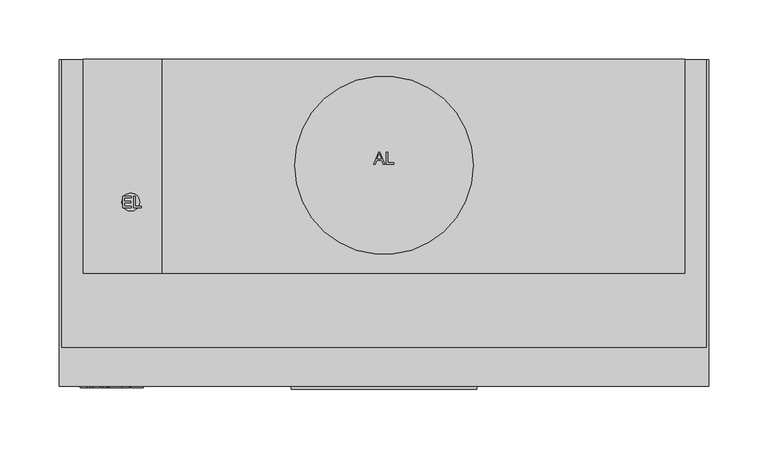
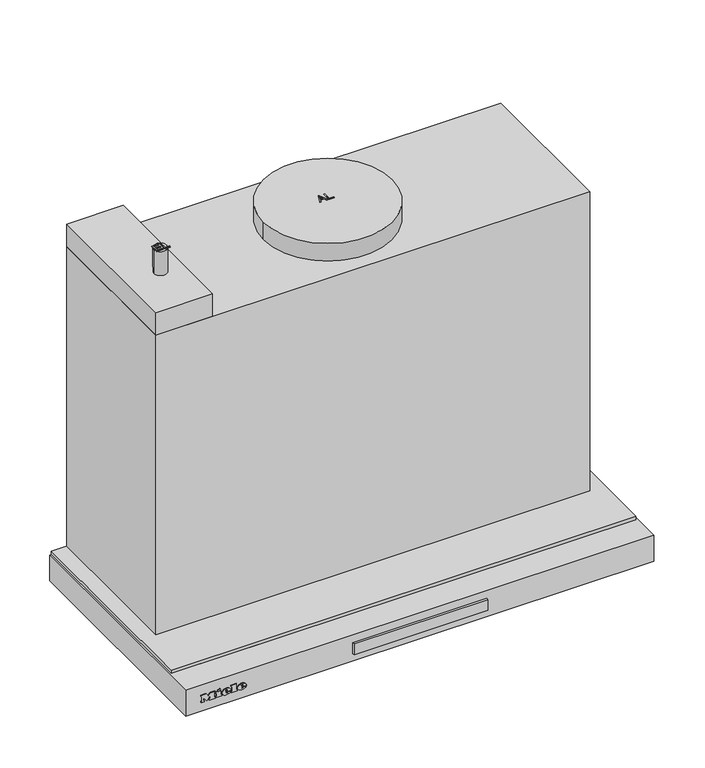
"""IFC4 building model written with IfcOpenShell, lengths in millimetres: proxy geometry, 11862900_CH_DAS4520_EDST : 28S4520S_CH_11862900_DAS4520_EDST."""

from ifc_helpers import new_model, si_unit, point, frame, frame_2d, origin, origin_with_axes, place, context, project, spatial, polyline, circle_curve, ellipse_curve, trimmed, segment, composite_curve, outline, extrude, faceted_brep, source, transform, mapped, element, save
from ifc_brep_helpers import plane_surface, cylinder_surface, revolved_surface, extruded_surface, advanced_brep


def specialty_equipment_daa0029f(model_context):
    return source(origin(), model_context, "Body", "SolidModel", [
        extrude(outline(polyline([(78.0, -275.0), (78.0, -277.3978707), (-78.0, -277.3978707), (-78.0, -275.0), (78.0, -275.0)])), frame((0.0, 0.0, -23.0389651), z_axis=(0.0, 0.0, 1.0), x_axis=(1.0, 0.0, 0.0)), (0.0, 0.0, 1.0), 13.3389155),
        advanced_brep(
        [(-208.4590019, -276.0, -18.7681017), (-208.4590019, -276.0, -17.8894017), (-202.6387019, -276.0, -17.8894017), (-212.7655019, -276.0, -17.8894017), (-210.3730019, -276.0, -20.8300017), (-202.7866019, -276.0, -18.7681017), (-205.4140019, -276.0, -18.7681017), (-207.4846019, -276.0, -19.7425017), (-208.4590019, -276.0, -16.7758017), (-208.4590019, -276.0, -15.8275017), (-206.9713019, -276.0, -15.8275017), (-206.9713019, -276.0, -16.7758017), (-208.4590019, -275.0, -18.7681017), (-207.4846019, -275.0, -19.7425017), (-205.4140019, -275.0, -18.7681017), (-202.7866019, -275.0, -18.7681017), (-210.3730019, -275.0, -20.8300017), (-212.7655019, -275.0, -17.8894017), (-202.6387019, -275.0, -17.8894017), (-208.4590019, -275.0, -17.8894017), (-208.4590019, -275.0, -16.7758017), (-206.9713019, -275.0, -16.7758017), (-206.9713019, -275.0, -15.8275017), (-208.4590019, -275.0, -15.8275017)],
        [
            (0, 1),
            (1, 2),
            (2, 3, ellipse_curve(frame((-207.7021019, -276.0, -17.8894017), z_axis=(0.0, -1.0, 0.0), x_axis=(-1.0, 0.0, 0.0)), 5.0634, 4.1847)),
            (3, 4, circle_curve(frame((-209.3985544, -276.0, -17.5936017), z_axis=(0.0, -1.0, 0.0), x_axis=(0.0, 0.0, -1.0)), 3.3799161)),
            (4, 5, circle_curve(frame((-207.8034638, -276.0, -15.2968017), z_axis=(0.0, -1.0, 0.0), x_axis=(0.0, 0.0, -1.0)), 6.1007236)),
            (5, 6),
            (6, 7, circle_curve(frame((-207.0593254, -276.0, -17.9590017), z_axis=(0.0, 1.0, 0.0), x_axis=(0.0, 0.0, -1.0)), 1.8335027)),
            (7, 0, circle_curve(frame((-207.4846019, -276.0, -18.7681017), z_axis=(0.0, 1.0, 0.0), x_axis=(0.0, 0.0, -1.0)), 0.9744)),
            (8, 9),
            (9, 10, circle_curve(frame((-207.7151519, -276.0, -15.8275017), z_axis=(0.0, 1.0, 0.0), x_axis=(0.0, 0.0, -1.0)), 0.74385)),
            (10, 11),
            (11, 8),
            (12, 13, circle_curve(frame((-207.4846019, -275.0, -18.7681017), z_axis=(0.0, -1.0, 0.0), x_axis=(0.0, 0.0, -1.0)), 0.9744)),
            (13, 14, circle_curve(frame((-207.0593254, -275.0, -17.9590017), z_axis=(0.0, -1.0, 0.0), x_axis=(0.0, 0.0, -1.0)), 1.8335027)),
            (14, 15),
            (15, 16, circle_curve(frame((-207.8034638, -275.0, -15.2968017), z_axis=(0.0, 1.0, 0.0), x_axis=(0.0, 0.0, -1.0)), 6.1007236)),
            (16, 17, circle_curve(frame((-209.3985544, -275.0, -17.5936017), z_axis=(0.0, 1.0, 0.0), x_axis=(0.0, 0.0, -1.0)), 3.3799161)),
            (17, 18, ellipse_curve(frame((-207.7021019, -275.0, -17.8894017), z_axis=(0.0, 1.0, 0.0), x_axis=(-1.0, 0.0, 0.0)), 5.0634, 4.1847)),
            (18, 19),
            (19, 12),
            (20, 21),
            (21, 22),
            (22, 23, circle_curve(frame((-207.7151519, -275.0, -15.8275017), z_axis=(0.0, -1.0, 0.0), x_axis=(0.0, 0.0, -1.0)), 0.74385)),
            (23, 20),
            (0, 12),
            (19, 1),
            (18, 2),
            (5, 15),
            (14, 6),
            (17, 3),
            (13, 7),
            (16, 4),
            (8, 20),
            (23, 9),
            (22, 10),
            (21, 11),
        ],
        [
            plane_surface(frame((-208.4590019, -276.0, -17.8894017), z_axis=(0.0, -1.0, 0.0), x_axis=(0.0, 0.0, 1.0))),
            plane_surface(frame((-208.4590019, -275.0, -17.8894017), z_axis=(0.0, 1.0, 0.0), x_axis=(0.0, 0.0, -1.0))),
            plane_surface(frame((-208.4590019, -276.0, -18.7681017), z_axis=(1.0, 0.0, 0.0), x_axis=(0.0, 1.0, 0.0))),
            plane_surface(frame((-208.4590019, -276.0, -17.8894017), z_axis=(0.0, 0.0, -1.0), x_axis=(0.0, 1.0, 0.0))),
            plane_surface(frame((-202.7866019, -276.0, -18.7681017), z_axis=(0.0, 0.0, 1.0), x_axis=(0.0, 1.0, 0.0))),
            extruded_surface(trimmed(ellipse_curve(frame((-207.7021019, -274.0, -17.8894017), z_axis=(0.0, -1.0, 0.0), x_axis=(-1.0, 0.0, 0.0)), 5.0634, 4.1847), [point((-202.6387019, -274.0, -17.8894017))], [point((-212.7655019, -274.0, -17.8894017))], True, "CARTESIAN"), (0.0, -1.0, 0.0), 1.0),
            revolved_surface(polyline([(-207.0593254, -275.0, -19.792504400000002), (-207.0593254, -276.0, -19.792504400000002)]), (-207.0593254, -275.0, -17.9590017), (0.0, 1.0, 0.0)),
            revolved_surface(polyline([(-207.4846019, -275.0, -19.7425017), (-207.4846019, -276.0, -19.7425017)]), (-207.4846019, -275.0, -18.7681017), (0.0, 1.0, 0.0)),
            cylinder_surface(frame((-209.3985544, -275.0, -17.5936017), z_axis=(0.0, -1.0, 0.0), x_axis=(0.0, 0.0, -1.0)), 3.3799161),
            cylinder_surface(frame((-207.8034638, -275.0, -15.2968017), z_axis=(0.0, -1.0, 0.0), x_axis=(0.0, 0.0, -1.0)), 6.1007236),
            plane_surface(frame((-208.4590019, -276.0, -16.7758017), z_axis=(1.0, 0.0, 0.0), x_axis=(0.0, 1.0, 0.0))),
            revolved_surface(polyline([(-207.7151519, -275.0, -16.571351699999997), (-207.7151519, -276.0, -16.571351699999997)]), (-207.7151519, -275.0, -15.8275017), (0.0, 1.0, 0.0)),
            plane_surface(frame((-206.9713019, -276.0, -15.8275017), z_axis=(-1.0, 0.0, 0.0), x_axis=(0.0, 1.0, 0.0))),
            plane_surface(frame((-206.9713019, -276.0, -16.7758017), z_axis=(0.0, 0.0, 1.0), x_axis=(0.0, 1.0, 0.0))),
        ],
        [
            (0, [[1, 2, 3, 4, 5, 6, 7, 8], [9, 10, 11, 12]]),
            (1, [[13, 14, 15, 16, 17, 18, 19, 20], [21, 22, 23, 24]]),
            (2, [[-1, 25, -20, 26]]),
            (3, [[-2, -26, -19, 27]]),
            (4, [[-6, 28, -15, 29]]),
            (5, [[-3, -27, -18, 30]]),
            (6, [[-7, -29, -14, 31]]),
            (7, [[-8, -31, -13, -25]]),
            (8, [[-4, -30, -17, 32]]),
            (9, [[-5, -32, -16, -28]]),
            (10, [[-9, 33, -24, 34]]),
            (11, [[-10, -34, -23, 35]]),
            (12, [[-11, -35, -22, 36]]),
            (13, [[-12, -36, -21, -33]]),
        ],
    ),
        advanced_brep(
        [(-226.6159019, -276.0, -18.7681017), (-226.6159019, -276.0, -17.8894017), (-220.7956019, -276.0, -17.8894017), (-230.9224019, -276.0, -17.8894017), (-228.5299019, -276.0, -20.8300017), (-220.9435019, -276.0, -18.7681017), (-223.5709019, -276.0, -18.7681017), (-225.6415019, -276.0, -19.7425017), (-226.6159019, -276.0, -16.7758017), (-226.6159019, -276.0, -15.8275017), (-225.1282019, -276.0, -15.8275017), (-225.1282019, -276.0, -16.7758017), (-226.6159019, -275.0, -18.7681017), (-225.6415019, -275.0, -19.7425017), (-223.5709019, -275.0, -18.7681017), (-220.9435019, -275.0, -18.7681017), (-228.5299019, -275.0, -20.8300017), (-230.9224019, -275.0, -17.8894017), (-220.7956019, -275.0, -17.8894017), (-226.6159019, -275.0, -17.8894017), (-226.6159019, -275.0, -16.7758017), (-225.1282019, -275.0, -16.7758017), (-225.1282019, -275.0, -15.8275017), (-226.6159019, -275.0, -15.8275017)],
        [
            (0, 1),
            (1, 2),
            (2, 3, ellipse_curve(frame((-225.8590019, -276.0, -17.8894017), z_axis=(0.0, -1.0, 0.0), x_axis=(-1.0, 0.0, 0.0)), 5.0634, 4.1847)),
            (3, 4, circle_curve(frame((-227.5554544, -276.0, -17.5936017), z_axis=(0.0, -1.0, 0.0), x_axis=(0.0, 0.0, -1.0)), 3.3799161)),
            (4, 5, circle_curve(frame((-225.9603638, -276.0, -15.2968017), z_axis=(0.0, -1.0, 0.0), x_axis=(0.0, 0.0, -1.0)), 6.1007236)),
            (5, 6),
            (6, 7, circle_curve(frame((-225.2162254, -276.0, -17.9590017), z_axis=(0.0, 1.0, 0.0), x_axis=(0.0, 0.0, -1.0)), 1.8335027)),
            (7, 0, circle_curve(frame((-225.6415019, -276.0, -18.7681017), z_axis=(0.0, 1.0, 0.0), x_axis=(0.0, 0.0, -1.0)), 0.9744)),
            (8, 9),
            (9, 10, circle_curve(frame((-225.8720519, -276.0, -15.8275017), z_axis=(0.0, 1.0, 0.0), x_axis=(0.0, 0.0, -1.0)), 0.74385)),
            (10, 11),
            (11, 8),
            (12, 13, circle_curve(frame((-225.6415019, -275.0, -18.7681017), z_axis=(0.0, -1.0, 0.0), x_axis=(0.0, 0.0, -1.0)), 0.9744)),
            (13, 14, circle_curve(frame((-225.2162254, -275.0, -17.9590017), z_axis=(0.0, -1.0, 0.0), x_axis=(0.0, 0.0, -1.0)), 1.8335027)),
            (14, 15),
            (15, 16, circle_curve(frame((-225.9603638, -275.0, -15.2968017), z_axis=(0.0, 1.0, 0.0), x_axis=(0.0, 0.0, -1.0)), 6.1007236)),
            (16, 17, circle_curve(frame((-227.5554544, -275.0, -17.5936017), z_axis=(0.0, 1.0, 0.0), x_axis=(0.0, 0.0, -1.0)), 3.3799161)),
            (17, 18, ellipse_curve(frame((-225.8590019, -275.0, -17.8894017), z_axis=(0.0, 1.0, 0.0), x_axis=(-1.0, 0.0, 0.0)), 5.0634, 4.1847)),
            (18, 19),
            (19, 12),
            (20, 21),
            (21, 22),
            (22, 23, circle_curve(frame((-225.8720519, -275.0, -15.8275017), z_axis=(0.0, -1.0, 0.0), x_axis=(0.0, 0.0, -1.0)), 0.74385)),
            (23, 20),
            (0, 12),
            (19, 1),
            (18, 2),
            (5, 15),
            (14, 6),
            (17, 3),
            (13, 7),
            (16, 4),
            (8, 20),
            (23, 9),
            (22, 10),
            (21, 11),
        ],
        [
            plane_surface(frame((-226.6159019, -276.0, -17.8894017), z_axis=(0.0, -1.0, 0.0), x_axis=(0.0, 0.0, 1.0))),
            plane_surface(frame((-226.6159019, -275.0, -17.8894017), z_axis=(0.0, 1.0, 0.0), x_axis=(0.0, 0.0, -1.0))),
            plane_surface(frame((-226.6159019, -276.0, -18.7681017), z_axis=(1.0, 0.0, 0.0), x_axis=(0.0, 1.0, 0.0))),
            plane_surface(frame((-226.6159019, -276.0, -17.8894017), z_axis=(0.0, 0.0, -1.0), x_axis=(0.0, 1.0, 0.0))),
            plane_surface(frame((-220.9435019, -276.0, -18.7681017), z_axis=(0.0, 0.0, 1.0), x_axis=(0.0, 1.0, 0.0))),
            extruded_surface(trimmed(ellipse_curve(frame((-225.8590019, -274.0, -17.8894017), z_axis=(0.0, -1.0, 0.0), x_axis=(-1.0, 0.0, 0.0)), 5.0634, 4.1847), [point((-220.7956019, -274.0, -17.8894017))], [point((-230.9224019, -274.0, -17.8894017))], True, "CARTESIAN"), (0.0, -1.0, 0.0), 1.0),
            revolved_surface(polyline([(-225.2162254, -275.0, -19.792504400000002), (-225.2162254, -276.0, -19.792504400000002)]), (-225.2162254, -275.0, -17.9590017), (0.0, 1.0, 0.0)),
            revolved_surface(polyline([(-225.6415019, -275.0, -19.7425017), (-225.6415019, -276.0, -19.7425017)]), (-225.6415019, -275.0, -18.7681017), (0.0, 1.0, 0.0)),
            cylinder_surface(frame((-227.5554544, -275.0, -17.5936017), z_axis=(0.0, -1.0, 0.0), x_axis=(0.0, 0.0, -1.0)), 3.3799161),
            cylinder_surface(frame((-225.9603638, -275.0, -15.2968017), z_axis=(0.0, -1.0, 0.0), x_axis=(0.0, 0.0, -1.0)), 6.1007236),
            plane_surface(frame((-226.6159019, -276.0, -16.7758017), z_axis=(1.0, 0.0, 0.0), x_axis=(0.0, 1.0, 0.0))),
            revolved_surface(polyline([(-225.8720519, -275.0, -16.571351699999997), (-225.8720519, -276.0, -16.571351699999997)]), (-225.8720519, -275.0, -15.8275017), (0.0, 1.0, 0.0)),
            plane_surface(frame((-225.1282019, -276.0, -15.8275017), z_axis=(-1.0, 0.0, 0.0), x_axis=(0.0, 1.0, 0.0))),
            plane_surface(frame((-225.1282019, -276.0, -16.7758017), z_axis=(0.0, 0.0, 1.0), x_axis=(0.0, 1.0, 0.0))),
        ],
        [
            (0, [[1, 2, 3, 4, 5, 6, 7, 8], [9, 10, 11, 12]]),
            (1, [[13, 14, 15, 16, 17, 18, 19, 20], [21, 22, 23, 24]]),
            (2, [[-1, 25, -20, 26]]),
            (3, [[-2, -26, -19, 27]]),
            (4, [[-6, 28, -15, 29]]),
            (5, [[-3, -27, -18, 30]]),
            (6, [[-7, -29, -14, 31]]),
            (7, [[-8, -31, -13, -25]]),
            (8, [[-4, -30, -17, 32]]),
            (9, [[-5, -32, -16, -28]]),
            (10, [[-9, 33, -24, 34]]),
            (11, [[-10, -34, -23, 35]]),
            (12, [[-11, -35, -22, 36]]),
            (13, [[-12, -36, -21, -33]]),
        ],
    ),
        extrude(outline(polyline([(-12.6433017, -236.1250019), (-14.0527017, -235.4638019), (-12.6781017, -232.5145019), (-11.2687017, -233.1670019), (-12.6433017, -236.1250019)])), frame((0.0, -276.0, 0.0), z_axis=(0.0, 1.0, 0.0), x_axis=(0.0, 0.0, 1.0)), (0.0, 0.0, 1.0), 1.0),
        extrude(outline(polyline([(-14.2441017, -238.2739019), (-15.8014017, -238.2739019), (-15.8014017, -237.2386019), (-19.3684017, -237.2386019), (-19.3684017, -238.2739019), (-20.8300017, -238.2739019), (-20.8300017, -231.4096019), (-19.3684017, -231.4096019), (-19.3684017, -232.4188019), (-14.2441017, -232.4188019), (-14.2441017, -238.2739019)])), frame((0.0, -276.0, 0.0), z_axis=(0.0, 1.0, 0.0), x_axis=(0.0, 0.0, 1.0)), (0.0, 0.0, 1.0), 1.0),
        extrude(outline(polyline([(-13.5481017, -220.3084019), (-13.5481017, -219.2644019), (-19.3684017, -219.2644019), (-19.3684017, -220.3084019), (-20.8300017, -220.3084019), (-20.8300017, -213.2527019), (-19.3684017, -213.2527019), (-19.3684017, -214.3228019), (-12.1300017, -214.3228019), (-12.1300017, -220.3084019), (-13.5481017, -220.3084019)])), frame((0.0, -276.0, 0.0), z_axis=(0.0, 1.0, 0.0), x_axis=(0.0, 0.0, 1.0)), (0.0, 0.0, 1.0), 1.0),
        extrude(outline(polyline([(-13.5481017, -255.6130019), (-13.5481017, -254.5603019), (-19.3684017, -254.5603019), (-19.3684017, -255.6130019), (-20.8300017, -255.6130019), (-20.8300017, -251.7850019), (-19.3684017, -251.7850019), (-19.3684017, -252.8290019), (-15.6719769, -252.8290019), (-20.8300017, -248.9401019), (-15.5772794, -245.0338019), (-19.3684017, -245.0338019), (-19.3684017, -246.1039019), (-20.8300017, -246.1039019), (-20.8300017, -239.1613019), (-19.3684017, -239.1613019), (-19.3684017, -240.2662019), (-13.5481017, -240.2662019), (-13.5481017, -239.1613019), (-12.1300017, -239.1613019), (-12.1300017, -244.4596019), (-15.3925017, -247.0000019), (-12.1300017, -249.5491019), (-12.1300017, -255.6130019), (-13.5481017, -255.6130019)])), frame((0.0, -276.0, 0.0), z_axis=(0.0, 1.0, 0.0), x_axis=(0.0, 0.0, 1.0)), (0.0, 0.0, 1.0), 1.0),
        extrude(outline(polyline([(253.0, -180.0), (-253.0, -180.0), (-253.0, 0.0), (253.0, 0.0), (253.0, -180.0)])), frame((0.0, 0.0, 4.0), z_axis=(0.0, 0.0, 1.0), x_axis=(1.0, 0.0, 0.0)), (0.0, 0.0, 1.0), 369.0),
        extrude(outline(composite_curve([segment(trimmed(circle_curve(frame_2d((0.0, -89.0)), 75.0), [point((-75.0, -89.0))], [point((75.0, -89.0))], False, "CARTESIAN"), True, "CONTINUOUS"), segment(trimmed(circle_curve(frame_2d((0.0, -89.0)), 75.0), [point((75.0, -89.0))], [point((-75.0, -89.0))], False, "CARTESIAN"), True, "CONTINUOUS")], self_intersect=False)), frame((0.0, 0.0, 373.0), z_axis=(0.0, 0.0, 1.0), x_axis=(1.0, 0.0, 0.0)), (0.0, 0.0, 1.0), 22.0),
        extrude(outline(polyline([(-253.0, -180.0), (-253.0, 0.0), (-187.0, 0.0), (-187.0, -180.0), (-253.0, -180.0)])), frame((0.0, 0.0, 373.0), z_axis=(0.0, 0.0, 1.0), x_axis=(1.0, 0.0, 0.0)), (0.0, 0.0, 1.0), 28.0),
        extrude(outline(polyline([(-8.5446725, -87.975609), (-4.5347587, -77.929978), (-3.4654484, -77.929978), (0.5420128, -87.975609), (-0.7848149, -87.975609), (-1.9326067, -84.8363493), (-6.0725055, -84.8363493), (-7.2202973, -87.975609), (-8.5446725, -87.975609)]), holes=[polyline([(-5.6114267, -83.5806455), (-2.391233, -83.5806455), (-3.2986752, -81.110931), (-4.0025561, -79.1856819), (-4.6279555, -80.8951069), (-5.6114267, -83.5806455)])]), frame((0.0, 0.0, 395.0), z_axis=(0.0, 0.0, 1.0), x_axis=(1.0, 0.0, 0.0)), (0.0, 0.0, 1.0), 1.0),
        extrude(outline(polyline([(1.8835558, -87.975609), (1.8835558, -77.929978), (3.1392597, -77.929978), (3.1392597, -86.7199052), (8.1620752, -86.7199052), (8.1620752, -87.975609), (1.8835558, -87.975609)])), frame((0.0, 0.0, 395.0), z_axis=(0.0, 0.0, 1.0), x_axis=(1.0, 0.0, 0.0)), (0.0, 0.0, 1.0), 1.0),
        extrude(outline(polyline([(271.0, 0.0), (271.0, -242.0), (-271.0, -242.0), (-271.0, 0.0), (271.0, 0.0)])), origin_with_axes(), (0.0, 0.0, 1.0), 4.0),
        extrude(outline(polyline([(120.0, -19.25), (120.0, -31.75), (-120.0, -31.75), (-120.0, -19.25), (120.0, -19.25)])), frame((0.0, 0.0, -23.0), z_axis=(0.0, 0.0, 1.0), x_axis=(1.0, 0.0, 0.0)), (0.0, 0.0, 1.0), 1.785426),
        extrude(outline(polyline([(156.0813184, -268.0), (156.0813184, -246.0), (224.0, -246.0), (224.0, -268.0), (156.0813184, -268.0)])), frame((0.0, 0.0, -33.3019181), z_axis=(0.0, 0.0, 1.0), x_axis=(1.0, 0.0, 0.0)), (0.0, 0.0, 1.0), 1.3019181),
        extrude(outline(polyline([(-224.0, -268.0), (-224.0, -246.0), (-156.0, -246.0), (-156.0, -268.0), (-224.0, -268.0)])), frame((0.0, 0.0, -33.3019181), z_axis=(0.0, 0.0, 1.0), x_axis=(1.0, 0.0, 0.0)), (0.0, 0.0, 1.0), 1.3019181),
        extrude(outline(composite_curve([segment(trimmed(circle_curve(frame_2d((-213.0, -120.0)), 7.5), [point((-205.5, -120.0))], [point((-220.5, -120.0))], False, "CARTESIAN"), True, "CONTINUOUS"), segment(trimmed(circle_curve(frame_2d((-213.0, -120.0)), 7.5), [point((-220.5, -120.0))], [point((-205.5, -120.0))], False, "CARTESIAN"), True, "CONTINUOUS")], self_intersect=False)), frame((0.0, 0.0, 401.0), z_axis=(0.0, 0.0, 1.0), x_axis=(1.0, 0.0, 0.0)), (0.0, 0.0, 1.0), 30.0),
        extrude(outline(polyline([(-210.640443, -124.9184735), (-210.640443, -114.8728425), (-209.3847391, -114.8728425), (-209.3847391, -123.6627696), (-204.3619236, -123.6627696), (-204.3619236, -124.9184735), (-210.640443, -124.9184735)])), frame((0.0, 0.0, 431.0), z_axis=(0.0, 0.0, 1.0), x_axis=(1.0, 0.0, 0.0)), (0.0, 0.0, 1.0), 1.0),
        extrude(outline(polyline([(-219.9012591, -124.9184735), (-219.9012591, -114.8728425), (-212.6809618, -114.8728425), (-212.6809618, -116.1285464), (-218.6455552, -116.1285464), (-218.6455552, -119.1108431), (-212.9948878, -119.1108431), (-212.9948878, -120.366547), (-218.6455552, -120.366547), (-218.6455552, -123.6627696), (-212.5239988, -123.6627696), (-212.5239988, -124.9184735), (-219.9012591, -124.9184735)])), frame((0.0, 0.0, 431.0), z_axis=(0.0, 0.0, 1.0), x_axis=(1.0, 0.0, 0.0)), (0.0, 0.0, 1.0), 1.0),
        extrude(outline(polyline([(-273.0, 0.0), (-238.0, 0.0), (-238.0, -242.0), (238.0, -242.0), (238.0, 0.0), (273.0, 0.0), (273.0, -275.0), (-273.0, -275.0), (-273.0, 0.0)])), frame((0.0, 0.0, -32.0), z_axis=(0.0, 0.0, 1.0), x_axis=(1.0, 0.0, 0.0)), (0.0, 0.0, 1.0), 32.0),
        faceted_brep([(-126.0, -39.0, -24.0), (-126.0, -39.0, 0.0), (126.0, -39.0, 0.0), (126.0, -39.0, -24.0), (-126.0, -12.0, -24.0), (-126.0, -12.0, 0.0), (126.0, -12.0, -24.0), (126.0, -12.0, 0.0), (-238.0, -242.0, 0.0), (-238.0, 0.0, 0.0), (-238.0, 0.0, -24.0), (-238.0, -52.0, -24.0), (-238.0, -52.0, -25.0), (-238.0, -242.0, -25.0), (238.0, -52.0, -25.0), (238.0, -242.0, -25.0), (238.0, -52.0, -24.0), (238.0, 0.0, -24.0), (238.0, 0.0, 0.0), (238.0, -242.0, 0.0)], [[[0, 1, 2, 3]], [[4, 5, 1, 0]], [[6, 7, 5, 4]], [[8, 9, 10, 11, 12, 13]], [[13, 12, 14, 15]], [[16, 11, 10, 17], [6, 4, 0, 3]], [[11, 16, 14, 12]], [[18, 9, 8, 19], [5, 7, 2, 1]], [[9, 18, 17, 10]], [[19, 8, 13, 15]], [[18, 19, 15, 14, 16, 17]], [[7, 6, 3, 2]]]),
        extrude(outline(polyline([(126.0, -12.0), (126.0, -39.0), (-126.0, -39.0), (-126.0, -12.0), (126.0, -12.0)]), holes=[polyline([(120.0, -19.25), (-120.0, -19.25), (-120.0, -31.75), (120.0, -31.75), (120.0, -19.25)])]), frame((0.0, 0.0, -21.214574), z_axis=(0.0, 0.0, 1.0), x_axis=(1.0, 0.0, 0.0)), (0.0, 0.0, 1.0), 21.214574),
    ])


if __name__ == "__main__":
    model = new_model("IFC4")
    model_context = context("Model", 3, world=origin())
    ifc_project = project(units=[si_unit("LENGTHUNIT", "METRE", prefix="MILLI")], contexts=[model_context])
    site = spatial("IfcSite", under=ifc_project)
    building = spatial("IfcBuilding", under=site)
    placement = place(None, origin())
    specialty_equipment_shape = specialty_equipment_daa0029f(model_context)
    element("IfcBuildingElementProxy", 1, Name="11862900_CH_DAS4520_EDST : 28S4520S_CH_11862900_DAS4520_EDST", ObjectType="11862900_CH_DAS4520_EDST : 28S4520S_CH_11862900_DAS4520_EDST", at=placement, inside=building, context=model_context, shape_type="MappedRepresentation", body=[
        mapped(specialty_equipment_shape, transform((0.0, 0.0, 0.0), x_axis=(1.0, 0.0, 0.0), y_axis=(0.0, 1.0, 0.0), z_axis=(0.0, 0.0, 1.0))),
    ])
    save(model, "model.ifc")
